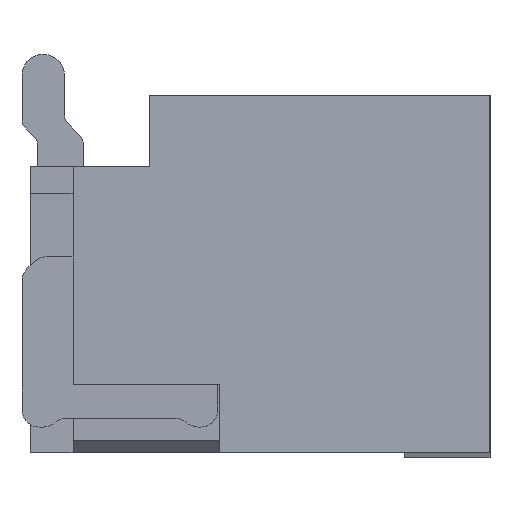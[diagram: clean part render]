
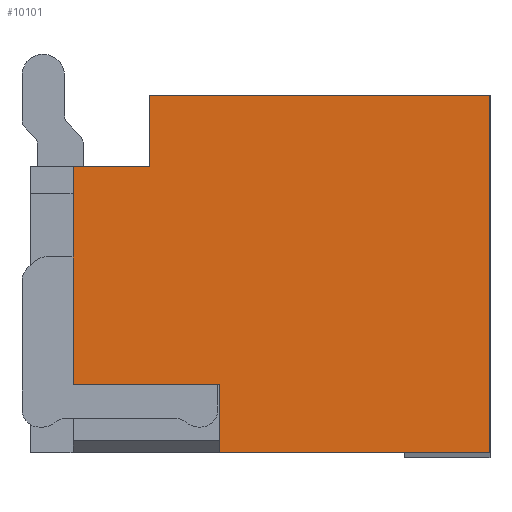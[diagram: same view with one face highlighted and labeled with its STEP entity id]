
A CAD part, left-side view. The second image highlights one B-rep face of the part: STEP entity #10101.
In plain terms, the highlighted planar face has unit normal (-1, 0, 0).
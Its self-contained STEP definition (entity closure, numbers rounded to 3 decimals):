
#639=DIRECTION('',(0.,0.,-1.));
#640=VECTOR('',#639,2.1);
#641=CARTESIAN_POINT('',(45.951,46.255,-2.015));
#642=LINE('',#641,#640);
#695=DIRECTION('',(0.,1.,0.));
#696=VECTOR('',#695,1.59);
#697=CARTESIAN_POINT('',(45.951,46.255,-4.115));
#698=LINE('',#697,#696);
#1369=DIRECTION('',(0.,0.,1.));
#1370=VECTOR('',#1369,0.42);
#1371=CARTESIAN_POINT('',(45.951,48.255,-2.435));
#1372=LINE('',#1371,#1370);
#1385=DIRECTION('',(0.,1.,0.));
#1386=VECTOR('',#1385,0.45);
#1387=CARTESIAN_POINT('',(45.951,48.255,-2.435));
#1388=LINE('',#1387,#1386);
#1389=DIRECTION('',(0.,1.,0.));
#1390=VECTOR('',#1389,2.);
#1391=CARTESIAN_POINT('',(45.951,46.255,-2.015));
#1392=LINE('',#1391,#1390);
#1393=DIRECTION('',(0.,0.,-1.));
#1394=VECTOR('',#1393,0.4);
#1395=CARTESIAN_POINT('',(45.951,47.845,-3.715));
#1396=LINE('',#1395,#1394);
#1521=DIRECTION('',(0.,0.,1.));
#1522=VECTOR('',#1521,1.28);
#1523=CARTESIAN_POINT('',(45.951,48.705,-3.715));
#1524=LINE('',#1523,#1522);
#5809=DIRECTION('',(0.,1.,0.));
#5810=VECTOR('',#5809,0.86);
#5811=CARTESIAN_POINT('',(45.951,47.845,-3.715));
#5812=LINE('',#5811,#5810);
#6463=CARTESIAN_POINT('',(45.951,48.705,-2.435));
#6464=VERTEX_POINT('',#6463);
#6465=CARTESIAN_POINT('',(45.951,48.705,-3.715));
#6466=VERTEX_POINT('',#6465);
#6595=CARTESIAN_POINT('',(45.951,48.255,-2.435));
#6596=VERTEX_POINT('',#6595);
#6948=CARTESIAN_POINT('',(45.951,47.845,-3.715));
#6949=VERTEX_POINT('',#6948);
#6964=CARTESIAN_POINT('',(45.951,47.845,-4.115));
#6965=VERTEX_POINT('',#6964);
#7104=CARTESIAN_POINT('',(45.951,48.255,-2.015));
#7105=VERTEX_POINT('',#7104);
#7106=CARTESIAN_POINT('',(45.951,46.255,-2.015));
#7107=VERTEX_POINT('',#7106);
#7108=CARTESIAN_POINT('',(45.951,46.255,-4.115));
#7109=VERTEX_POINT('',#7108);
#10082=CARTESIAN_POINT('',(45.951,75.644,
-2.446));
#10083=DIRECTION('',(-1.,0.,0.));
#10084=DIRECTION('',(0.,0.,1.));
#10085=AXIS2_PLACEMENT_3D('',#10082,#10083,#10084);
#10086=PLANE('',#10085);
#10088=ORIENTED_EDGE('',*,*,#10087,.F.);
#10089=ORIENTED_EDGE('',*,*,#10061,.T.);
#10090=ORIENTED_EDGE('',*,*,#10075,.F.);
#10091=ORIENTED_EDGE('',*,*,#9075,.T.);
#10092=ORIENTED_EDGE('',*,*,#9132,.T.);
#10094=ORIENTED_EDGE('',*,*,#10093,.F.);
#10096=ORIENTED_EDGE('',*,*,#10095,.T.);
#10098=ORIENTED_EDGE('',*,*,#10097,.T.);
#10099=EDGE_LOOP('',(#10088,#10089,#10090,#10091,#10092,#10094,#10096,#10098));
#10100=FACE_OUTER_BOUND('',#10099,.F.);
#10101=ADVANCED_FACE('',(#10100),#10086,.T.);
#9075=EDGE_CURVE('',#7107,#7109,#642,.T.);
#9132=EDGE_CURVE('',#7109,#6965,#698,.T.);
#10061=EDGE_CURVE('',#6596,#7105,#1372,.T.);
#10075=EDGE_CURVE('',#7107,#7105,#1392,.T.);
#10087=EDGE_CURVE('',#6596,#6464,#1388,.T.);
#10093=EDGE_CURVE('',#6949,#6965,#1396,.T.);
#10095=EDGE_CURVE('',#6949,#6466,#5812,.T.);
#10097=EDGE_CURVE('',#6466,#6464,#1524,.T.);
